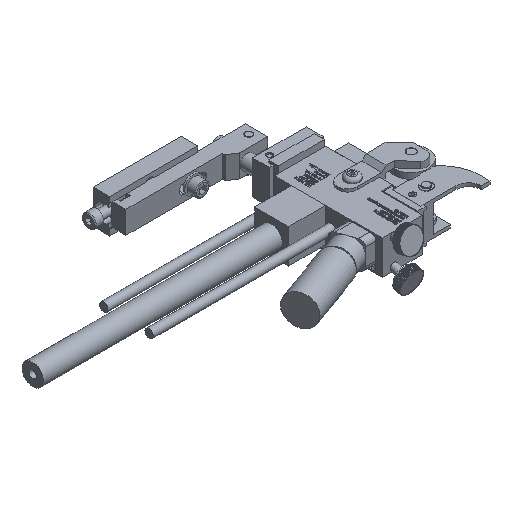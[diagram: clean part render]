
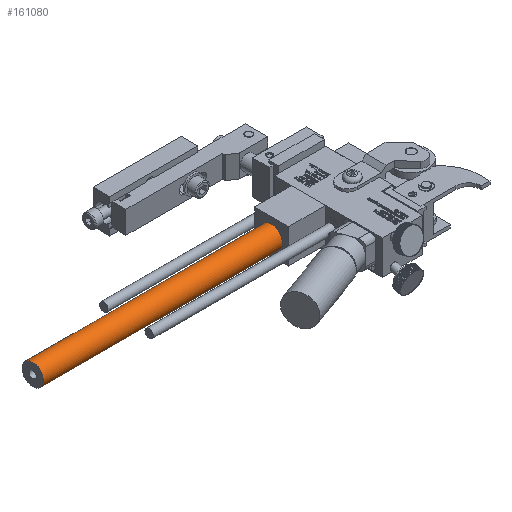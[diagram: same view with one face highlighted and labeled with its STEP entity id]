
A CAD part, isometric view. The second image highlights one B-rep face of the part: STEP entity #161080.
In plain terms, the highlighted cylindrical face has radius 5.969 mm (diameter 11.938 mm), a full revolution.
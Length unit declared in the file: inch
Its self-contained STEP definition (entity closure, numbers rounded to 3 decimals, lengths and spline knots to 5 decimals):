
#160758=CARTESIAN_POINT('',(-1.4995,0.8125,0.61));
#160759=VERTEX_POINT('',#160758);
#160760=CARTESIAN_POINT('',(-1.4995,0.8125,0.375));
#160761=DIRECTION('',(1.0,0.0,0.0));
#160762=DIRECTION('',(0.0,0.0,-1.0));
#160763=AXIS2_PLACEMENT_3D('',#160760,#160761,#160762);
#160764=CIRCLE('',#160763,0.235);
#160765=EDGE_CURVE('',#160759,#160759,#160764,.T.);
#161046=CARTESIAN_POINT('',(-6.7495,0.8125,0.61));
#161047=VERTEX_POINT('',#161046);
#161048=CARTESIAN_POINT('',(-6.7495,0.8125,0.375));
#161049=DIRECTION('',(1.0,0.0,0.0));
#161050=DIRECTION('',(0.0,0.0,-1.0));
#161051=AXIS2_PLACEMENT_3D('',#161048,#161049,#161050);
#161052=CIRCLE('',#161051,0.235);
#161053=EDGE_CURVE('',#161047,#161047,#161052,.T.);
#161069=CARTESIAN_POINT('',(-1.4995,0.8125,0.375));
#161070=DIRECTION('',(-1.0,0.,0.));
#161071=DIRECTION('',(0.0,0.0,-1.0));
#161072=AXIS2_PLACEMENT_3D('',#161069,#161070,#161071);
#161073=CYLINDRICAL_SURFACE('',#161072,0.235);
#161074=ORIENTED_EDGE('',*,*,#161053,.T.);
#161075=EDGE_LOOP('',(#161074));
#161076=FACE_OUTER_BOUND('',#161075,.T.);
#161077=ORIENTED_EDGE('',*,*,#160765,.F.);
#161078=EDGE_LOOP('',(#161077));
#161079=FACE_BOUND('',#161078,.T.);
#161080=ADVANCED_FACE('',(#161076,#161079),#161073,.T.);
